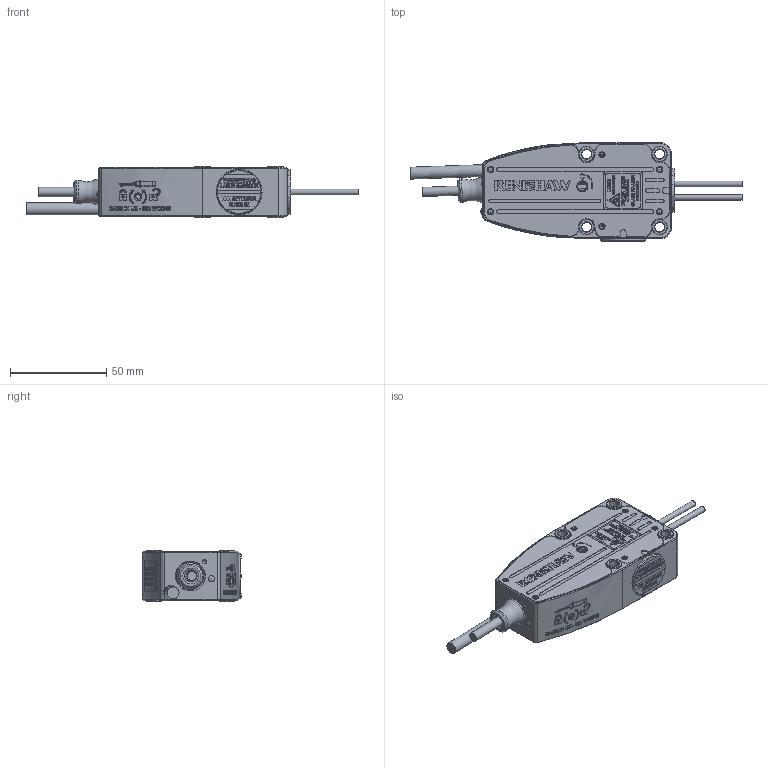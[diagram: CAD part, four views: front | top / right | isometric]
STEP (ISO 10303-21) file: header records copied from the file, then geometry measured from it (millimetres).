
FILE_DESCRIPTION( ( 'Unknown' ), '1' );
FILE_NAME( 'C:/Part1.stp', 'Unknown', ( 'Unknown' ), ( 'Unknown' ), 'XStep 1.0', 'Unknown', ' ' );
FILE_SCHEMA( ( 'CONFIG_CONTROL_DESIGN' ) );
Length unit declared in the file: millimetre
Products named in the file (1): 1
Bounding box: 172.85 x 51.4 x 27 mm (x, y, z)
Volume: 117379.4 mm3; surface area: 23607 mm2
Topology: 1 solids, 2 shells, 4473 faces, 12004 edges, 7996 vertices
Faces by surface type: plane 2797, extrusion 1069, cylinder 542, cone 48, torus 16, sphere 1
Full cylindrical faces by diameter (mm): 1.5 x1, 1.75 x1, 2 x1, 2.05 x6, 2.5 x1, 3 x16, 3.175 x1, 3.2 x14, 4 x1, 4.8 x3, 5 x4, 5.75 x2, 6 x2, 6.2 x2, 8 x8, 12.4 x1, 12.5 x1, 14 x2, 14.4 x1, 23.2 x1, 23.9 x2
Entity records: 146440 total; most frequent: CARTESIAN_POINT 37645, ORIENTED_EDGE 23670, DIRECTION 19265, EDGE_CURVE 11835, VECTOR 8825, VERTEX_POINT 7952, LINE 7756, AXIS2_PLACEMENT_3D 5220
